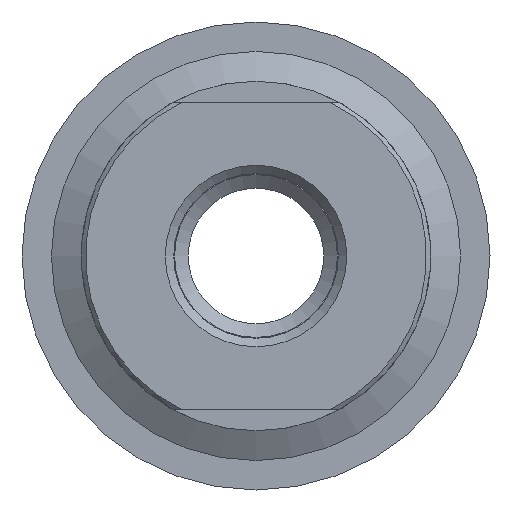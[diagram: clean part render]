
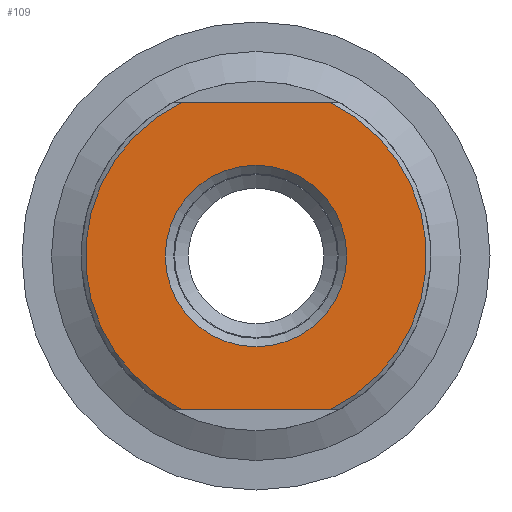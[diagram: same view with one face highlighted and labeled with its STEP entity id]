
A CAD part, front view. The second image highlights one B-rep face of the part: STEP entity #109.
In plain terms, the highlighted planar face has unit normal (0, -1, 0).
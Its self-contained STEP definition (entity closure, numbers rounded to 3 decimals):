
#109 = ADVANCED_FACE( '', ( #237, #238 ), #239, .T. );
#237 = FACE_BOUND( '', #392, .T. );
#238 = FACE_OUTER_BOUND( '', #393, .T. );
#239 = PLANE( '', #394 );
#392 = EDGE_LOOP( '', ( #584 ) );
#393 = EDGE_LOOP( '', ( #585, #586, #587, #588 ) );
#394 = AXIS2_PLACEMENT_3D( '', #589, #590, #591 );
#584 = ORIENTED_EDGE( '', *, *, #602, .T. );
#585 = ORIENTED_EDGE( '', *, *, #612, .F. );
#586 = ORIENTED_EDGE( '', *, *, #599, .T. );
#587 = ORIENTED_EDGE( '', *, *, #625, .T. );
#588 = ORIENTED_EDGE( '', *, *, #641, .T. );
#589 = CARTESIAN_POINT( '', ( 0., 0., 0. ) );
#590 = DIRECTION( '', ( 0., -1., 0. ) );
#591 = DIRECTION( '', ( 0., 0., -1. ) );
#599 = EDGE_CURVE( '', #670, #674, #676, .T. );
#602 = EDGE_CURVE( '', #680, #680, #681, .F. );
#612 = EDGE_CURVE( '', #670, #688, #696, .T. );
#625 = EDGE_CURVE( '', #674, #716, #717, .T. );
#641 = EDGE_CURVE( '', #716, #688, #738, .T. );
#670 = VERTEX_POINT( '', #775 );
#674 = VERTEX_POINT( '', #782 );
#676 = CIRCLE( '', #787, 20. );
#680 = VERTEX_POINT( '', #791 );
#681 = CIRCLE( '', #792, 10.65 );
#688 = VERTEX_POINT( '', #799 );
#696 = LINE( '', #813, #814 );
#716 = VERTEX_POINT( '', #870 );
#717 = LINE( '', #871, #872 );
#738 = CIRCLE( '', #899, 20. );
#775 = CARTESIAN_POINT( '', ( 8.718, 0., -18. ) );
#782 = CARTESIAN_POINT( '', ( 8.718, 0., 18. ) );
#787 = AXIS2_PLACEMENT_3D( '', #975, #976, #977 );
#791 = CARTESIAN_POINT( '', ( 0., 0., -10.65 ) );
#792 = AXIS2_PLACEMENT_3D( '', #981, #982, #983 );
#799 = CARTESIAN_POINT( '', ( -8.718, 0., -18. ) );
#813 = CARTESIAN_POINT( '', ( 10., 0., -18. ) );
#814 = VECTOR( '', #993, 1000. );
#870 = CARTESIAN_POINT( '', ( -8.718, 0., 18. ) );
#871 = CARTESIAN_POINT( '', ( 10., 0., 18. ) );
#872 = VECTOR( '', #1009, 1000. );
#899 = AXIS2_PLACEMENT_3D( '', #1028, #1029, #1030 );
#975 = CARTESIAN_POINT( '', ( 0., 0., 0. ) );
#976 = DIRECTION( '', ( 0., -1., 0. ) );
#977 = DIRECTION( '', ( 0., 0., -1. ) );
#981 = CARTESIAN_POINT( '', ( 0., 0., 0. ) );
#982 = DIRECTION( '', ( 0., -1., 0. ) );
#983 = DIRECTION( '', ( 0., 0., -1. ) );
#993 = DIRECTION( '', ( -1., 0., 0. ) );
#1009 = DIRECTION( '', ( -1., 0., 0. ) );
#1028 = CARTESIAN_POINT( '', ( 0., 0., 0. ) );
#1029 = DIRECTION( '', ( 0., -1., 0. ) );
#1030 = DIRECTION( '', ( 0., 0., -1. ) );
